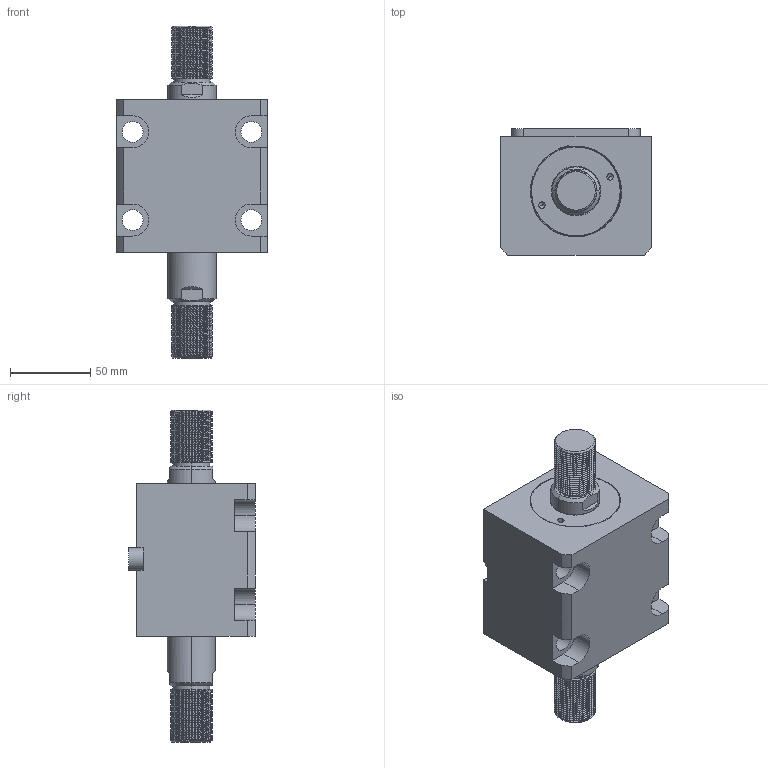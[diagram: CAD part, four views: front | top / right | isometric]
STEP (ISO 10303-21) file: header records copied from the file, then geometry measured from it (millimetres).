
FILE_DESCRIPTION (( 'STEP AP203' ), '1' );
FILE_NAME ('CHTB-LWM50-20W.STEP', '2018-05-22T08:42:23', ( '' ), ( '' ), 'SwSTEP 2.0', 'SolidWorks 2015', '' );
FILE_SCHEMA (( 'CONFIG_CONTROL_DESIGN' ));
Length unit declared in the file: millimetre
Products named in the file (4): CHTM-SDMA50QG; CHTB-LWM50-20W; 活塞杆LWM50-20W; 掛极LWM50-20W
Assembly tree (3 placements, depth 2):
  CHTB-LWM50-20W
    掛极LWM50-20W
    CHTM-SDMA50QG
    活塞杆LWM50-20W
Bounding box: 94 x 79 x 207 mm (x, y, z)
Volume: 646862.4 mm3; surface area: 113279.9 mm2
Topology: 3 solids, 3 shells, 303 faces, 838 edges, 557 vertices
Faces by surface type: cylinder 188, plane 63, cone 18, bspline 18, torus 16
Entity records: 19179 total; most frequent: CARTESIAN_POINT 11775, ORIENTED_EDGE 1668, DIRECTION 1271, EDGE_CURVE 834, VERTEX_POINT 557, AXIS2_PLACEMENT_3D 484, EDGE_LOOP 339, ADVANCED_FACE 303
